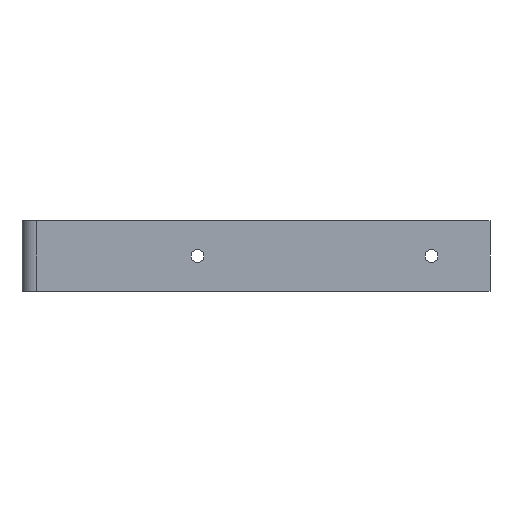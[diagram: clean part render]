
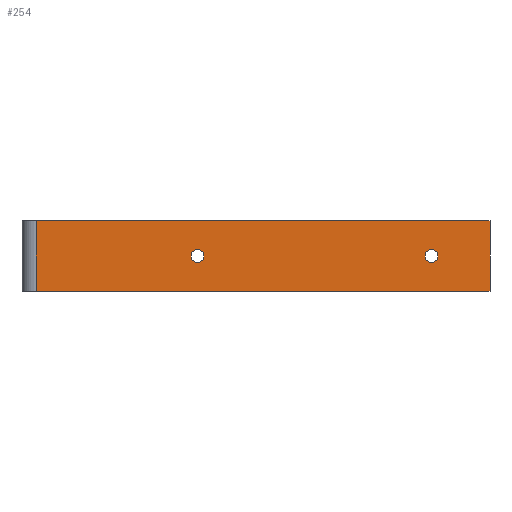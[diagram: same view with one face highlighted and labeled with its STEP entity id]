
A CAD part, left-side view. The second image highlights one B-rep face of the part: STEP entity #254.
In plain terms, the highlighted planar face has unit normal (-1, 0, 0).
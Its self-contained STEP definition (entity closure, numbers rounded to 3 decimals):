
#6 = VERTEX_POINT ( 'NONE', #377 ) ;
#13 = ORIENTED_EDGE ( 'NONE', *, *, #568, .F. ) ;
#14 = EDGE_CURVE ( 'NONE', #872, #120, #678, .T. ) ;
#19 = VERTEX_POINT ( 'NONE', #820 ) ;
#21 = ORIENTED_EDGE ( 'NONE', *, *, #498, .F. ) ;
#26 = VERTEX_POINT ( 'NONE', #148 ) ;
#28 = DIRECTION ( 'NONE',  ( -1., 0., 0. ) ) ;
#37 = ORIENTED_EDGE ( 'NONE', *, *, #309, .T. ) ;
#41 = DIRECTION ( 'NONE',  ( 0., -1., 0. ) ) ;
#81 = AXIS2_PLACEMENT_3D ( 'NONE', #947, #653, #951 ) ;
#97 = EDGE_CURVE ( 'NONE', #209, #120, #616, .T. ) ;
#102 = DIRECTION ( 'NONE',  ( -1., 0., 0. ) ) ;
#104 = DIRECTION ( 'NONE',  ( 0., -1., 0. ) ) ;
#105 = CARTESIAN_POINT ( 'NONE',  ( -5., -70., 0. ) ) ;
#120 = VERTEX_POINT ( 'NONE', #394 ) ;
#141 = EDGE_CURVE ( 'NONE', #26, #6, #761, .T. ) ;
#148 = CARTESIAN_POINT ( 'NONE',  ( -5., -172.75, 0. ) ) ;
#158 = VERTEX_POINT ( 'NONE', #861 ) ;
#172 = VECTOR ( 'NONE', #248, 1000. ) ;
#181 = ORIENTED_EDGE ( 'NONE', *, *, #97, .T. ) ;
#209 = VERTEX_POINT ( 'NONE', #358 ) ;
#212 = FACE_BOUND ( 'NONE', #911, .T. ) ;
#221 = DIRECTION ( 'NONE',  ( 0., 0., -1. ) ) ;
#233 = VECTOR ( 'NONE', #104, 1000. ) ;
#234 = LINE ( 'NONE', #740, #837 ) ;
#248 = DIRECTION ( 'NONE',  ( 0., -1., 0. ) ) ;
#254 = ADVANCED_FACE ( 'NONE', ( #212, #349, #483 ), #789, .F. ) ;
#309 = EDGE_CURVE ( 'NONE', #158, #209, #234, .T. ) ;
#319 = AXIS2_PLACEMENT_3D ( 'NONE', #105, #324, #627 ) ;
#324 = DIRECTION ( 'NONE',  ( -1., 0., 0. ) ) ;
#333 = DIRECTION ( 'NONE',  ( 0., -1., 0. ) ) ;
#349 = FACE_BOUND ( 'NONE', #633, .T. ) ;
#358 = CARTESIAN_POINT ( 'NONE',  ( -5., -1., -15. ) ) ;
#377 = CARTESIAN_POINT ( 'NONE',  ( -5., -167.25, 0. ) ) ;
#394 = CARTESIAN_POINT ( 'NONE',  ( -5., -195., -15. ) ) ;
#404 = ORIENTED_EDGE ( 'NONE', *, *, #865, .F. ) ;
#448 = CIRCLE ( 'NONE', #794, 2.75 ) ;
#449 = CARTESIAN_POINT ( 'NONE',  ( -5., -67.25, 0. ) ) ;
#468 = AXIS2_PLACEMENT_3D ( 'NONE', #631, #930, #41 ) ;
#483 = FACE_OUTER_BOUND ( 'NONE', #957, .T. ) ;
#498 = EDGE_CURVE ( 'NONE', #19, #556, #448, .T. ) ;
#506 = CIRCLE ( 'NONE', #468, 2.75 ) ;
#522 = CARTESIAN_POINT ( 'NONE',  ( -5., -195., -15. ) ) ;
#537 = VECTOR ( 'NONE', #221, 1000. ) ;
#548 = DIRECTION ( 'NONE',  ( 0., -1., 0. ) ) ;
#556 = VERTEX_POINT ( 'NONE', #449 ) ;
#568 = EDGE_CURVE ( 'NONE', #556, #19, #891, .T. ) ;
#616 = LINE ( 'NONE', #629, #172 ) ;
#627 = DIRECTION ( 'NONE',  ( 0., -1., 0. ) ) ;
#629 = CARTESIAN_POINT ( 'NONE',  ( -5., -1., -15. ) ) ;
#631 = CARTESIAN_POINT ( 'NONE',  ( -5., -170., 0. ) ) ;
#632 = CARTESIAN_POINT ( 'NONE',  ( -5., -70., 0. ) ) ;
#633 = EDGE_LOOP ( 'NONE', ( #21, #13 ) ) ;
#649 = ORIENTED_EDGE ( 'NONE', *, *, #14, .F. ) ;
#650 = CARTESIAN_POINT ( 'NONE',  ( -5., -195., 15. ) ) ;
#653 = DIRECTION ( 'NONE',  ( 1., 0., 0. ) ) ;
#674 = ORIENTED_EDGE ( 'NONE', *, *, #141, .F. ) ;
#678 = LINE ( 'NONE', #522, #537 ) ;
#698 = AXIS2_PLACEMENT_3D ( 'NONE', #766, #102, #333 ) ;
#716 = CARTESIAN_POINT ( 'NONE',  ( -5., -1., 15. ) ) ;
#740 = CARTESIAN_POINT ( 'NONE',  ( -5., -1., 15. ) ) ;
#761 = CIRCLE ( 'NONE', #698, 2.75 ) ;
#766 = CARTESIAN_POINT ( 'NONE',  ( -5., -170., 0. ) ) ;
#789 = PLANE ( 'NONE',  #81 ) ;
#794 = AXIS2_PLACEMENT_3D ( 'NONE', #632, #28, #548 ) ;
#801 = ORIENTED_EDGE ( 'NONE', *, *, #821, .F. ) ;
#820 = CARTESIAN_POINT ( 'NONE',  ( -5., -72.75, 0. ) ) ;
#821 = EDGE_CURVE ( 'NONE', #6, #26, #506, .T. ) ;
#837 = VECTOR ( 'NONE', #892, 1000. ) ;
#861 = CARTESIAN_POINT ( 'NONE',  ( -5., -1., 15. ) ) ;
#865 = EDGE_CURVE ( 'NONE', #158, #872, #935, .T. ) ;
#872 = VERTEX_POINT ( 'NONE', #650 ) ;
#891 = CIRCLE ( 'NONE', #319, 2.75 ) ;
#892 = DIRECTION ( 'NONE',  ( 0., 0., -1. ) ) ;
#911 = EDGE_LOOP ( 'NONE', ( #674, #801 ) ) ;
#930 = DIRECTION ( 'NONE',  ( -1., 0., 0. ) ) ;
#935 = LINE ( 'NONE', #716, #233 ) ;
#947 = CARTESIAN_POINT ( 'NONE',  ( -5., -1., 15. ) ) ;
#951 = DIRECTION ( 'NONE',  ( 0., 1., 0. ) ) ;
#957 = EDGE_LOOP ( 'NONE', ( #181, #649, #404, #37 ) ) ;
